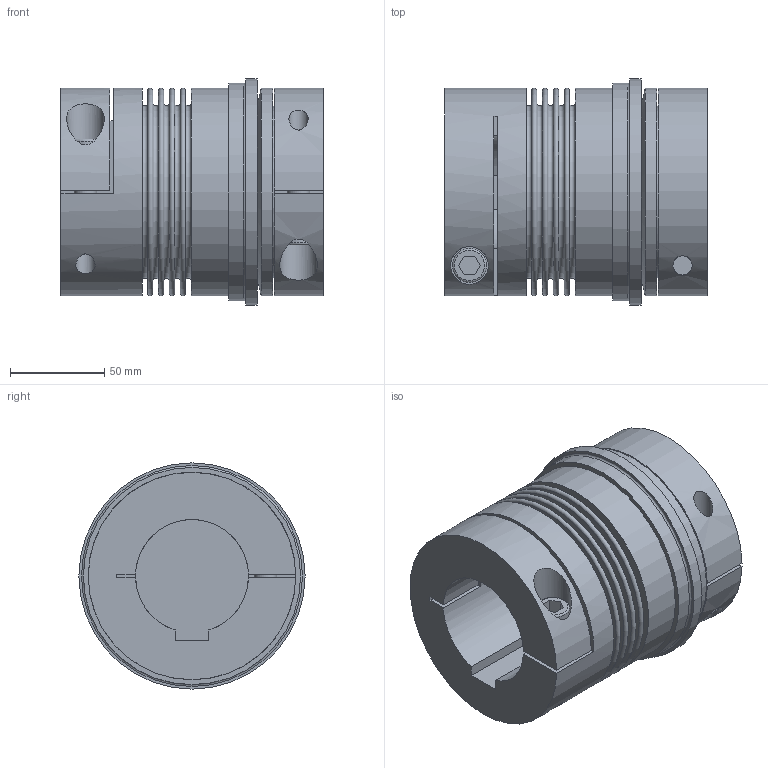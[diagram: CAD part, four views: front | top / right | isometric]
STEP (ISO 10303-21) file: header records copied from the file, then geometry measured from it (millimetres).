
FILE_DESCRIPTION(/* description */ ('STEP AP214'),/* implementation_level */ '2;1');
FILE_NAME(/* name */ 'C:\Diequa Files\DieQua Coupling\TB2\STP\TB2.300.139.WDG.#.#.stp',/* time_stamp */ '2019-04-26T10:40:31-05:00',/* author */ ('DiequaCAD'),/* organization */ (''),/* preprocessor_version */ 'ST-DEVELOPER v18',/* originating_system */ 'Autodesk Inventor 2020',/* authorisation */ ' ');
FILE_SCHEMA (('AUTOMOTIVE_DESIGN { 1 0 10303 214 3 1 1 }'));
Length unit declared in the file: millimetre
Products named in the file (1): TB2.300.139.WDG.#.#
Bounding box: 139 x 120 x 120 mm (x, y, z)
Volume: 1023252.5 mm3; surface area: 140443.3 mm2
Topology: 1 solids, 1 shells, 90 faces, 212 edges, 148 vertices
Faces by surface type: plane 57, cylinder 20, torus 12, cone 1
Full cylindrical faces by diameter (mm): 10.2 x2, 12 x2, 13.5 x2, 18 x2, 20 x2, 90.8 x1, 110 x3, 115.2 x1, 120 x1
Entity records: 2857 total; most frequent: CARTESIAN_POINT 603, DIRECTION 491, ORIENTED_EDGE 424, EDGE_CURVE 212, AXIS2_PLACEMENT_3D 194, VERTEX_POINT 148, EDGE_LOOP 118, LINE 103
